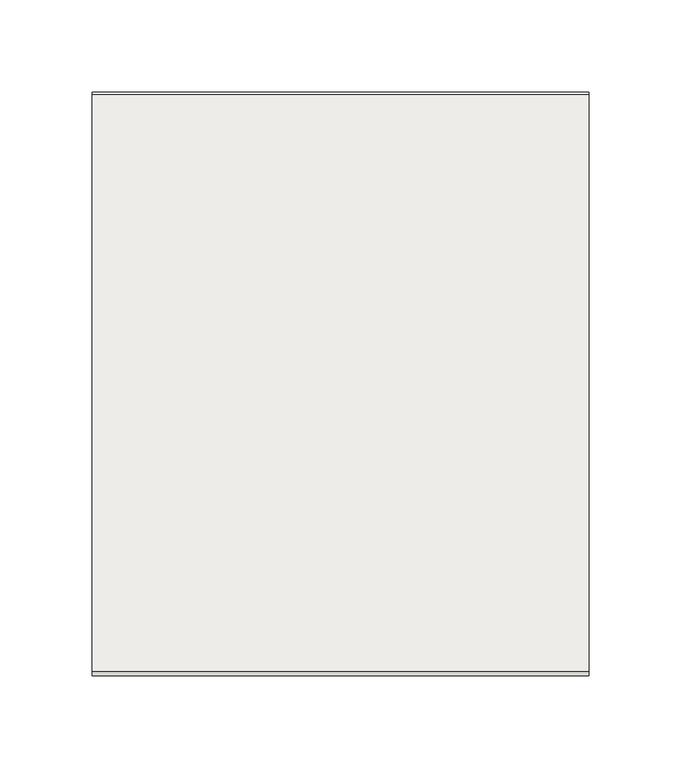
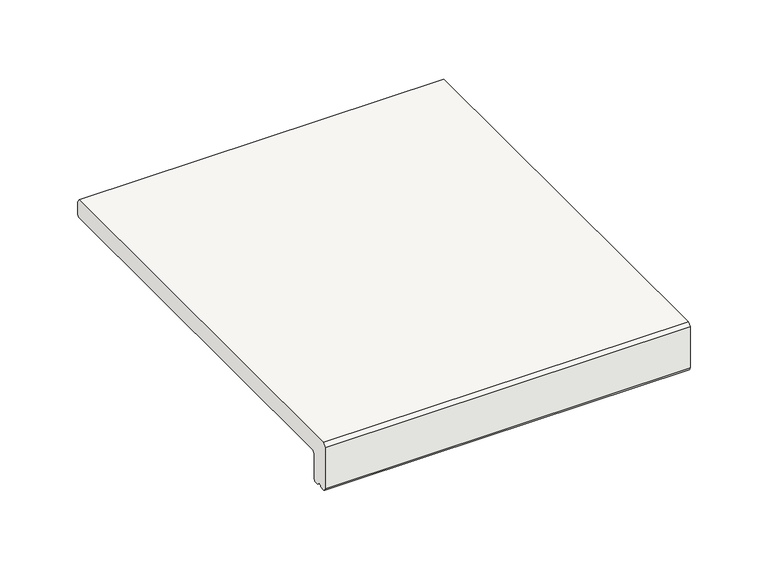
"""IFC4 building model written with IfcOpenShell, lengths in millimetres: slab geometry, ROSA GRES_L62 : Pieza L62_Serena_Ocra_Anti-Slip."""

from ifc_helpers import new_model, si_unit, point, frame, frame_2d, origin, place, context, project, spatial, polyline, circle_curve, trimmed, segment, composite_curve, outline, extrude, source, transform, mapped, element, save


def slab_9a2c1d77(model_context):
    return source(origin(), model_context, "Body", "SweptSolid", [
        extrude(outline(composite_curve([segment(polyline([(12.1001991, -37.0), (9.4054777, -37.0)]), True, "CONTINUOUS"), segment(trimmed(circle_curve(frame_2d((7.4142134, -37.0)), 1.9912643), [point((9.4054777, -37.0))], [point((5.422949, -37.0))], True, "CARTESIAN"), True, "CONTINUOUS"), segment(polyline([(5.422949, -37.0), (2.5, -37.0)]), True, "CONTINUOUS"), segment(trimmed(circle_curve(frame_2d((2.5, -34.5)), 2.5), [point((2.5, -37.0))], [point((0.0, -34.5))], False, "CARTESIAN"), True, "CONTINUOUS"), segment(polyline([(0.0, -34.5), (0.0, -2.5), (2.5, 0.0), (315.5, 0.0), (317.0, -2.5), (317.0, -12.4648352)]), True, "CONTINUOUS"), segment(trimmed(circle_curve(frame_2d((315.5234432, -12.4648352)), 1.4765568), [point((317.0, -12.4648352))], [point((315.5234432, -13.9413919))], False, "CARTESIAN"), True, "CONTINUOUS"), segment(polyline([(315.5234432, -13.9413919), (16.6422322, -13.9413919)]), True, "CONTINUOUS"), segment(trimmed(circle_curve(frame_2d((16.6422322, -16.5836242)), 2.6422322), [point((16.6422322, -13.9413919))], [point((14.0, -16.5836242))], True, "CARTESIAN"), True, "CONTINUOUS"), segment(polyline([(14.0, -16.5836242), (14.0, -35.1001991)]), True, "CONTINUOUS"), segment(trimmed(circle_curve(frame_2d((12.1001991, -35.1001991)), 1.8998009), [point((14.0, -35.1001991))], [point((12.1001991, -37.0))], False, "CARTESIAN"), True, "CONTINUOUS")], self_intersect=False)), frame((0.0, 0.0, 0.0), z_axis=(1.0, 0.0, 0.0), x_axis=(0.0, 1.0, 0.0)), (0.0, 0.0, 1.0), 270.0),
    ])


if __name__ == "__main__":
    model = new_model("IFC4")
    model_context = context("Model", 3, world=origin())
    ifc_project = project(units=[si_unit("LENGTHUNIT", "METRE", prefix="MILLI")], contexts=[model_context])
    site = spatial("IfcSite", under=ifc_project)
    building = spatial("IfcBuilding", under=site)
    placement = place(None, origin())
    slab_shape = slab_9a2c1d77(model_context)
    element("IfcSlab", 1, ObjectType="ROSA GRES_L62 : Pieza L62_Serena_Ocra_Anti-Slip", at=placement, inside=building, context=model_context, shape_type="MappedRepresentation", body=[
        mapped(slab_shape, transform((0.0, 0.0, 0.0), x_axis=(1.0, 0.0, 0.0), y_axis=(0.0, 1.0, 0.0), z_axis=(0.0, 0.0, 1.0))),
    ])
    save(model, "model.ifc")
